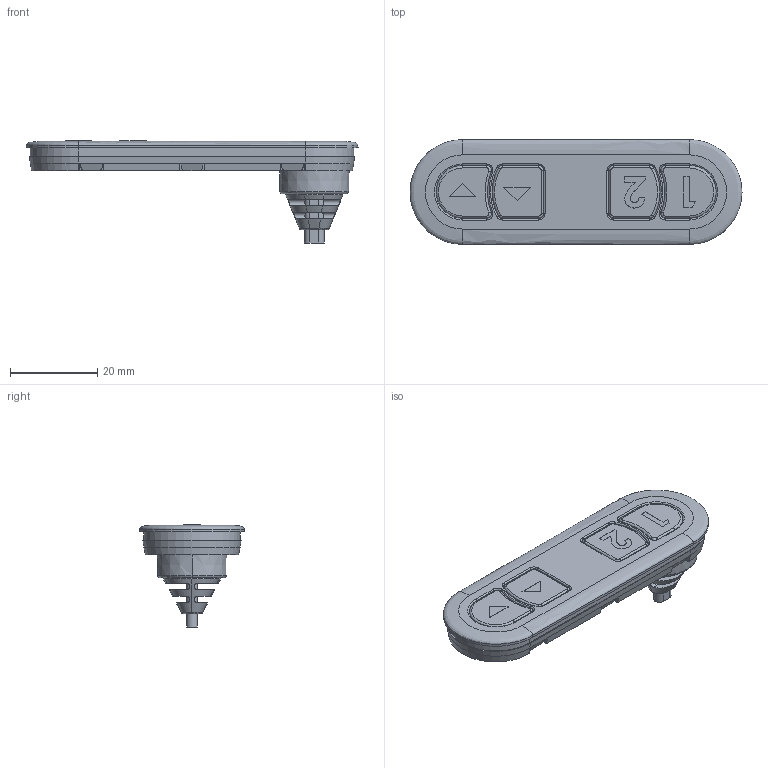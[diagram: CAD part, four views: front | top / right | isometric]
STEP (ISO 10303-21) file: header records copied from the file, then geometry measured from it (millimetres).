
FILE_DESCRIPTION((''),'2;1');
FILE_NAME('ENVELOP_LM4IC','2019-03-23T13:56:16',('TEJ'),(''),'CREO PARAMETRIC BY PTC INC, 2018500','CREO PARAMETRIC BY PTC INC, 2018500','');
FILE_SCHEMA(('AUTOMOTIVE_DESIGN { 1 0 10303 214 1 1 1 1 }'));
Length unit declared in the file: millimetre
Products named in the file (1): ENVELOP_LM4IC
Bounding box: 76 x 24 x 23.35 mm (x, y, z)
Volume: 11655 mm3; surface area: 6793.5 mm2
Topology: 1 solids, 2 shells, 373 faces, 954 edges, 602 vertices
Faces by surface type: plane 184, cylinder 90, torus 32, cone 28, bspline 22, extrusion 15, revolution 2
Entity records: 16961 total; most frequent: CARTESIAN_POINT 3332, ORIENTED_EDGE 1908, DIRECTION 1767, PRESENTATION_STYLE_ASSIGNMENT 1200, STYLED_ITEM 968, CURVE_STYLE 967, EDGE_CURVE 954, VECTOR 605
